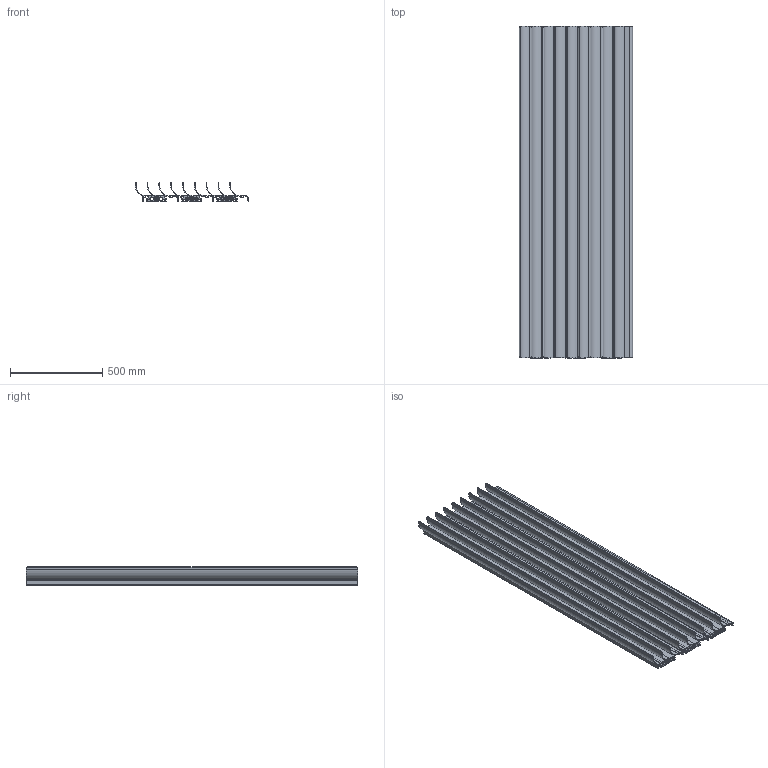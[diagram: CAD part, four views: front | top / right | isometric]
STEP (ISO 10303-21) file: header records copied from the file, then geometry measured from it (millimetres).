
FILE_DESCRIPTION (( 'STEP AP203' ), '1' );
FILE_NAME ('FBRADX1803.STEP', '2026-03-03T14:30:02', ( '' ), ( '' ), 'SwSTEP 2.0', 'SolidWorks 2025', '' );
FILE_SCHEMA (( 'CONFIG_CONTROL_DESIGN' ));
Length unit declared in the file: millimetre
Products named in the file (5): TAPPO GRANDE ESTRUSI; ESTRUSO BRASILIA_1800DX; TAPPO PICCOLO ESTRUSI; TAPPO SFIATO ESTRUSI; FBRADX1803
Assembly tree (14 placements, depth 2):
  FBRADX1803
    ESTRUSO BRASILIA_1800DX  x3
    TAPPO GRANDE ESTRUSI  x3
    TAPPO PICCOLO ESTRUSI  x6
    TAPPO SFIATO ESTRUSI  x2
Bounding box: 614 x 1800 x 101 mm (x, y, z)
Volume: 18212417.9 mm3; surface area: 7636863.9 mm2
Topology: 25 solids, 25 shells, 2067 faces, 5427 edges, 3294 vertices
Faces by surface type: bspline 764, cylinder 476, plane 343, torus 274, cone 176, sphere 34
Entity records: 41484 total; most frequent: CARTESIAN_POINT 27461, ORIENTED_EDGE 3180, DIRECTION 2187, EDGE_CURVE 1590, VERTEX_POINT 987, AXIS2_PLACEMENT_3D 846, B_SPLINE_CURVE_WITH_KNOTS 646, EDGE_LOOP 635
